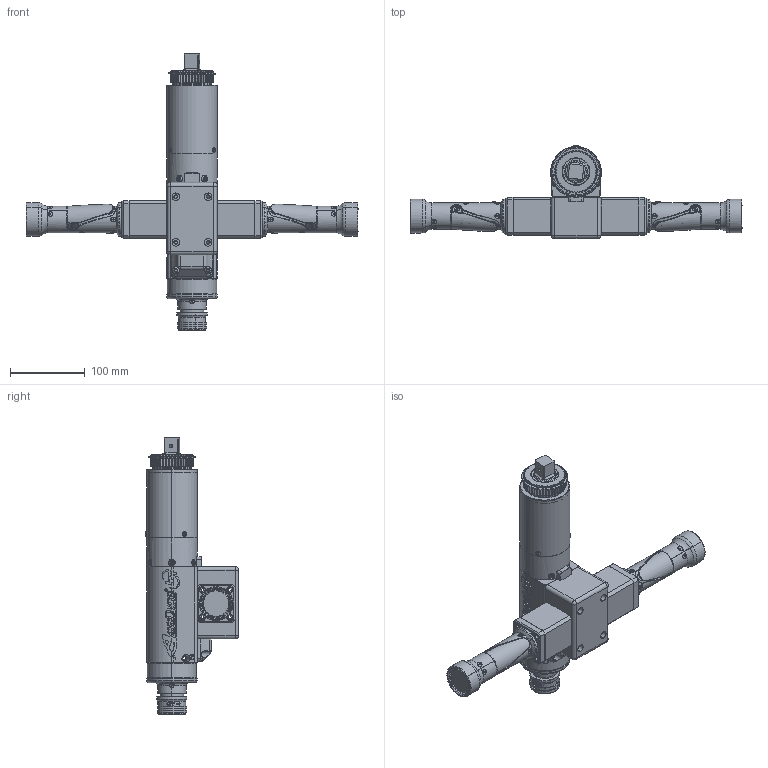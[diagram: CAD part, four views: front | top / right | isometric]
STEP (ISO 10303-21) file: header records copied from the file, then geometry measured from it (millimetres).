
FILE_DESCRIPTION (( 'STEP AP214' ), '1' );
FILE_NAME ('AEF4B66625BDL, AEF4B66925BDL.STEP', '2018-10-02T17:34:44', ( 'AIMCO' ), ( '' ), 'SwSTEP 2.0', 'SolidWorks 2018', '' );
FILE_SCHEMA (( 'AUTOMOTIVE_DESIGN' ));
Length unit declared in the file: inch
Products named in the file (1): AEF4B66625BDL, AEF4B66925BDL
Bounding box: 443.58 x 124.73 x 368.8 mm (x, y, z)
Surface area: 248964.4 mm2 (no closed solid volume)
Topology: 0 solids, 166 shells, 1685 faces, 6614 edges, 4885 vertices
Faces by surface type: cylinder 550, plane 472, torus 233, cone 214, bspline 202, sphere 14
Entity records: 149171 total; most frequent: CARTESIAN_POINT 77057, ORIENTED_EDGE 9873, DIRECTION 9329, EDGE_CURVE 6608, VERTEX_POINT 4885, AXIS2_PLACEMENT_3D 3500, LINE 2329, VECTOR 2329
